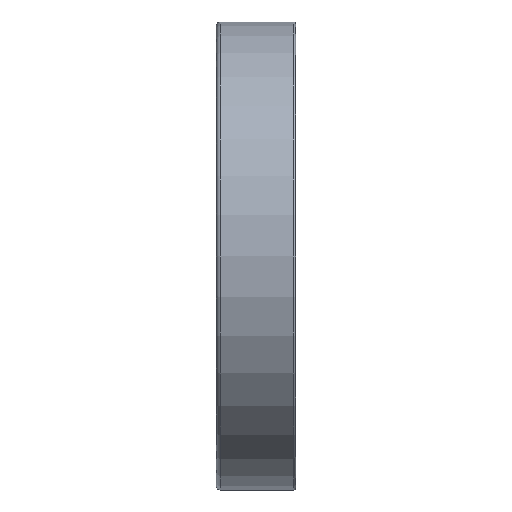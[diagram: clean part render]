
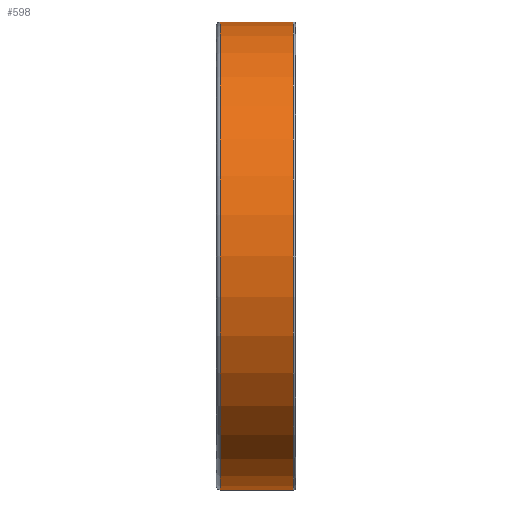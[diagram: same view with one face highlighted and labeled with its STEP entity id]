
A CAD part, front view. The second image highlights one B-rep face of the part: STEP entity #598.
In plain terms, the highlighted cylindrical face has radius 65 mm (diameter 130 mm), a full revolution.
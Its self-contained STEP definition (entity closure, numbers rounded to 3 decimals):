
#176=CYLINDRICAL_SURFACE('',#946,65.);
#288=EDGE_LOOP('',(#412));
#289=EDGE_LOOP('',(#413));
#412=ORIENTED_EDGE('',*,*,#482,.F.);
#413=ORIENTED_EDGE('',*,*,#480,.T.);
#480=EDGE_CURVE('',#867,#867,#500,.T.);
#482=EDGE_CURVE('',#869,#869,#502,.T.);
#500=CIRCLE('',#942,65.);
#502=CIRCLE('',#945,65.);
#598=ADVANCED_FACE('',(#757,#758),#176,.T.);
#757=FACE_BOUND('',#288,.T.);
#758=FACE_BOUND('',#289,.T.);
#867=VERTEX_POINT('',#2010);
#869=VERTEX_POINT('',#2015);
#942=AXIS2_PLACEMENT_3D('',#2009,#1079,#1080);
#945=AXIS2_PLACEMENT_3D('',#2014,#1085,#1086);
#946=AXIS2_PLACEMENT_3D('',#2016,#1087,#1088);
#1079=DIRECTION('',(1.,0.,0.));
#1080=DIRECTION('',(0.,0.,-1.));
#1085=DIRECTION('',(1.,0.,0.));
#1086=DIRECTION('',(0.,0.,-1.));
#1087=DIRECTION('',(1.,0.,0.));
#1088=DIRECTION('',(0.,0.,-1.));
#2009=CARTESIAN_POINT('',(-9.9,0.,0.));
#2010=CARTESIAN_POINT('',(-9.9,0.,-65.));
#2014=CARTESIAN_POINT('',(10.4,0.,0.));
#2015=CARTESIAN_POINT('',(10.4,0.,-65.));
#2016=CARTESIAN_POINT('',(-9.9,0.,0.));
